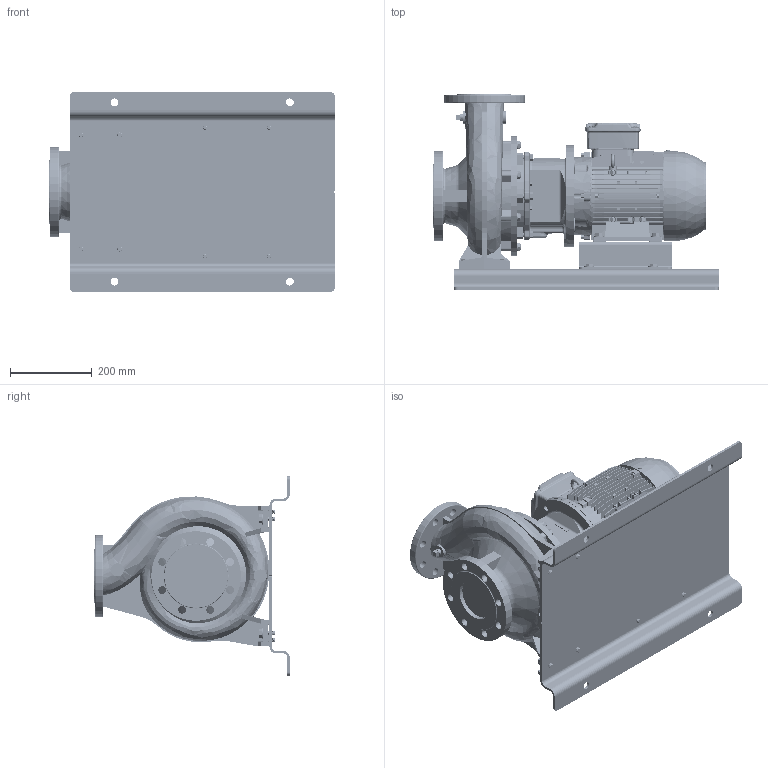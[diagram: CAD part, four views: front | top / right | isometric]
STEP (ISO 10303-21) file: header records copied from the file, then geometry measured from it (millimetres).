
FILE_DESCRIPTION (( 'STEP AP214' ), '1' );
FILE_NAME ('GSD4 80-200_4.0_(112M)_W21_BP.STEP', '2026-05-08T06:49:55', ( '' ), ( '' ), 'SwSTEP 2.0', 'SolidWorks 2024', '' );
FILE_SCHEMA (( 'AUTOMOTIVE_DESIGN' ));
Length unit declared in the file: millimetre
Products named in the file (13): GSD4 80-200_4.0_(112M)_W21_BP; Parametric bolt and washer_SFT-A299B; 80-200-112M_ﾃﾞﾌｫﾙﾄ; Parametric bolt and washer_SFT-A249B; Parametric bolt_SFT-A299B; 140_178 x 68 BP - 271472191; Parametric bolt_SFT-A249B; 112M ALIE3_W21T_B35; Parametric bolt_SFT-A253B; Parametric bolt and washer_SFT-A253B; Parametric Flat Washer_M10; N5S5 GSDA-555 F1-1832918-00; Parametric Flat Washer_M12
Assembly tree (22 placements, depth 3):
  GSD4 80-200_4.0_(112M)_W21_BP
    80-200-112M_ﾃﾞﾌｫﾙﾄ
    112M ALIE3_W21T_B35
    N5S5 GSDA-555 F1-1832918-00
    140_178 x 68 BP - 271472191
    Parametric bolt and washer_SFT-A249B  x4
      Parametric bolt_SFT-A249B
      Parametric Flat Washer_M10
    Parametric bolt and washer_SFT-A253B  x4
      Parametric bolt_SFT-A253B
      Parametric Flat Washer_M10
    Parametric bolt and washer_SFT-A299B  x4
      Parametric bolt_SFT-A299B
      Parametric Flat Washer_M12
Bounding box: 700 x 480 x 490 mm (x, y, z)
Volume: 28711142.2 mm3; surface area: 2627843.5 mm2
Topology: 38 solids, 40 shells, 5389 faces, 14338 edges, 9316 vertices
Faces by surface type: plane 2754, cylinder 1326, bspline 500, cone 419, torus 379, sphere 11
Entity records: 218866 total; most frequent: CARTESIAN_POINT 102501, ORIENTED_EDGE 26064, DIRECTION 21213, EDGE_CURVE 13032, VERTEX_POINT 8476, VECTOR 7239, LINE 7239, AXIS2_PLACEMENT_3D 6987
